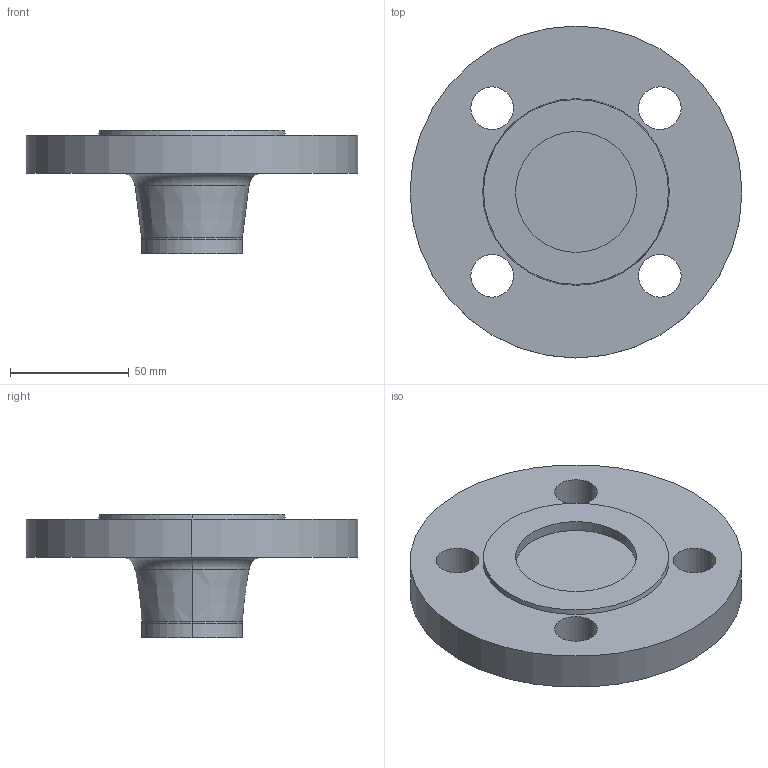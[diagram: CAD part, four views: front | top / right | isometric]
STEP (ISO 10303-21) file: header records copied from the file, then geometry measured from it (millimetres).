
FILE_DESCRIPTION (( 'STEP AP214' ), '1' );
FILE_NAME ('PN40 DN32 Type 21(ii) - Type G Face.STEP', '2018-12-29T23:39:34', ( '' ), ( '' ), 'SwSTEP 2.0', 'SolidWorks 2019', '' );
FILE_SCHEMA (( 'AUTOMOTIVE_DESIGN' ));
Length unit declared in the file: millimetre
Products named in the file (1): PN40 DN32 Type 21(ii) - Type G Face
Bounding box: 140 x 140 x 52 mm (x, y, z)
Volume: 286219.8 mm3; surface area: 44618.8 mm2
Topology: 1 solids, 1 shells, 27 faces, 60 edges, 38 vertices
Faces by surface type: cylinder 14, plane 5, torus 4, cone 4
Entity records: 818 total; most frequent: DIRECTION 158, CARTESIAN_POINT 126, ORIENTED_EDGE 120, AXIS2_PLACEMENT_3D 70, EDGE_CURVE 60, CIRCLE 42, VERTEX_POINT 38, EDGE_LOOP 38
